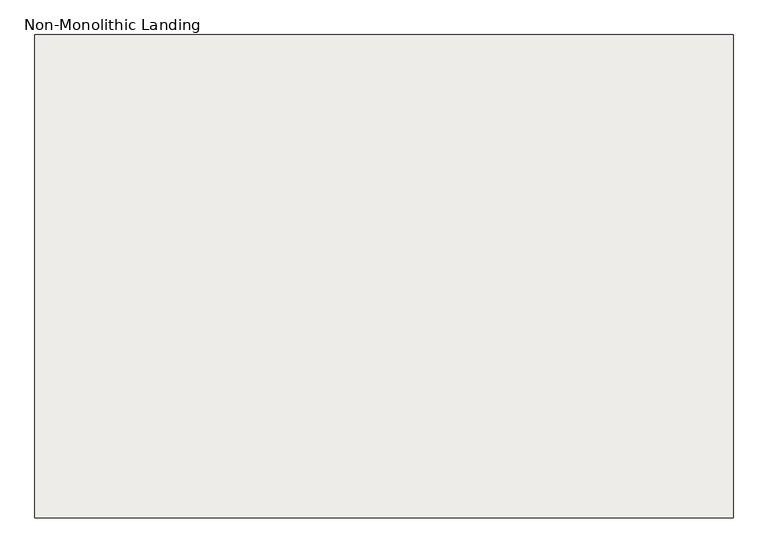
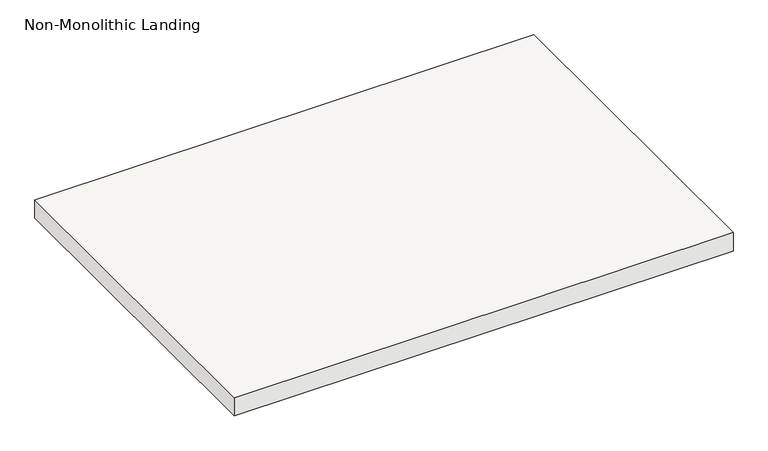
"""IFC4 building model written with IfcOpenShell, lengths in millimetres: slab geometry, Non-Monolithic Landing."""

from ifc_helpers import new_model, si_unit, frame, origin, place, context, project, spatial, polyline, outline, extrude, source, transform, mapped, element, save


def non_monolithic_landing_1fe08bb0(model_context):
    return source(origin(), model_context, "Body", "SweptSolid", [
        extrude(outline(polyline([(138305.2882982, 16760.4395941), (139626.0882982, 16760.4395941), (139626.0882982, 15846.0395941), (138305.2882982, 15846.0395941), (138305.2882982, 16760.4395941)])), frame((0.0, 0.0, 2126.3428571), z_axis=(0.0, 0.0, 1.0), x_axis=(1.0, 0.0, 0.0)), (0.0, 0.0, 1.0), 50.8),
    ])


if __name__ == "__main__":
    model = new_model("IFC4")
    model_context = context("Model", 3, world=origin())
    ifc_project = project(units=[si_unit("LENGTHUNIT", "METRE", prefix="MILLI")], contexts=[model_context])
    site = spatial("IfcSite", under=ifc_project)
    building = spatial("IfcBuilding", under=site)
    placement = place(None, origin())
    non_monolithic_landing_shape = non_monolithic_landing_1fe08bb0(model_context)
    element("IfcSlab", 1, ObjectType="Non-Monolithic Landing", at=placement, inside=building, context=model_context, shape_type="MappedRepresentation", body=[
        mapped(non_monolithic_landing_shape, transform((0.0, 0.0, 0.0), x_axis=(1.0, 0.0, 0.0), y_axis=(0.0, 1.0, 0.0), z_axis=(0.0, 0.0, 1.0))),
    ])
    save(model, "model.ifc")
